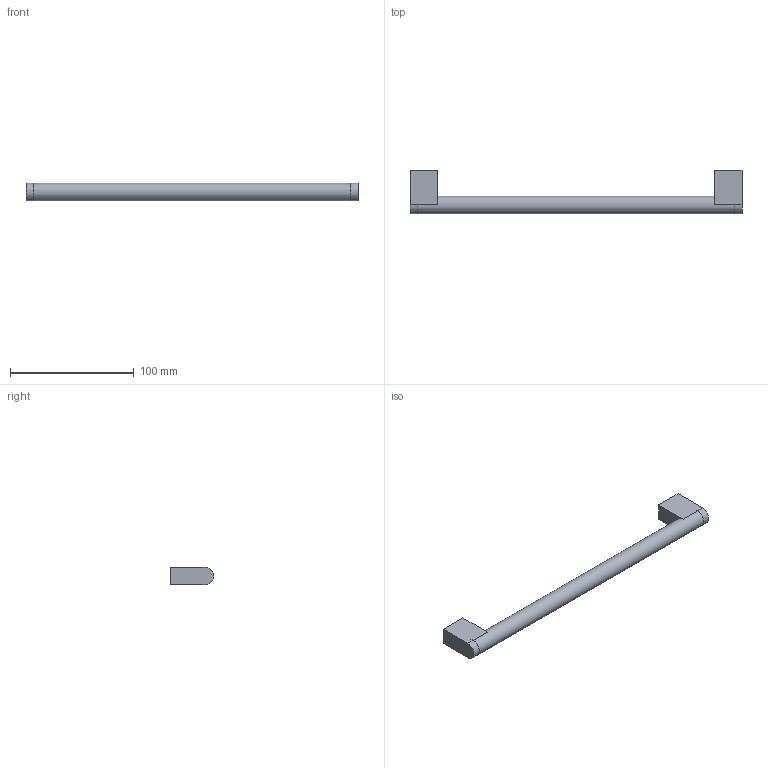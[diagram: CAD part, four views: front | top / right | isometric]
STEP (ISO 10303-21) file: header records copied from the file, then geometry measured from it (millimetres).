
FILE_DESCRIPTION( ( 'STEP AP214' ), ' ' );
FILE_NAME( 'C:/Users/bhog/Desktop/Handle/9070107/9070107.stp', '2018-11-20T10:20:39', ( '' ), ( '' ), ' ', 'PARTsolutions', ' ' );
FILE_SCHEMA( ( 'AUTOMOTIVE_DESIGN { 1 0 10303 214 1 1 1 1 }' ) );
Length unit declared in the file: millimetre
Products named in the file (1): _9070107
Bounding box: 268 x 35 x 14 mm (x, y, z)
Volume: 54941.9 mm3; surface area: 17166.4 mm2
Topology: 1 solids, 1 shells, 21 faces, 41 edges, 26 vertices
Faces by surface type: plane 14, cylinder 7
Full cylindrical faces by diameter (mm): 4 x2, 13.98 x1
Entity records: 706 total; most frequent: DIRECTION 96, CARTESIAN_POINT 86, ORIENTED_EDGE 76, EDGE_CURVE 38, AXIS2_PLACEMENT_3D 36, EDGE_LOOP 28, VERTEX_POINT 26, FACE_OUTER_BOUND 24
